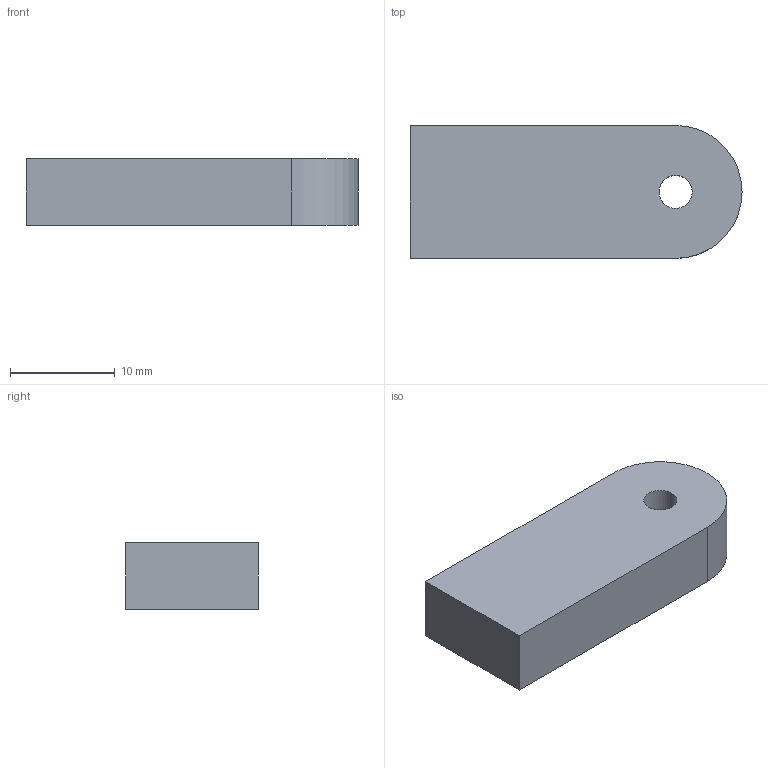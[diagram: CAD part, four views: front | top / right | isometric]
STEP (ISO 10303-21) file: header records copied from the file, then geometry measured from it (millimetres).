
FILE_DESCRIPTION (( 'STEP AP214' ), '1' );
FILE_NAME ('Rod_part2.STEP', '2015-04-16T23:57:50', ( '' ), ( '' ), 'SwSTEP 2.0', 'SolidWorks 2012', '' );
FILE_SCHEMA (( 'AUTOMOTIVE_DESIGN' ));
Length unit declared in the file: inch
Products named in the file (1): Rod_part2
Bounding box: 31.75 x 12.7 x 6.35 mm (x, y, z)
Volume: 2401.2 mm3; surface area: 1349.7 mm2
Topology: 1 solids, 1 shells, 10 faces, 24 edges, 16 vertices
Faces by surface type: plane 6, cylinder 4
Entity records: 340 total; most frequent: DIRECTION 54, CARTESIAN_POINT 51, ORIENTED_EDGE 48, EDGE_CURVE 24, AXIS2_PLACEMENT_3D 19, VERTEX_POINT 16, LINE 16, VECTOR 16
